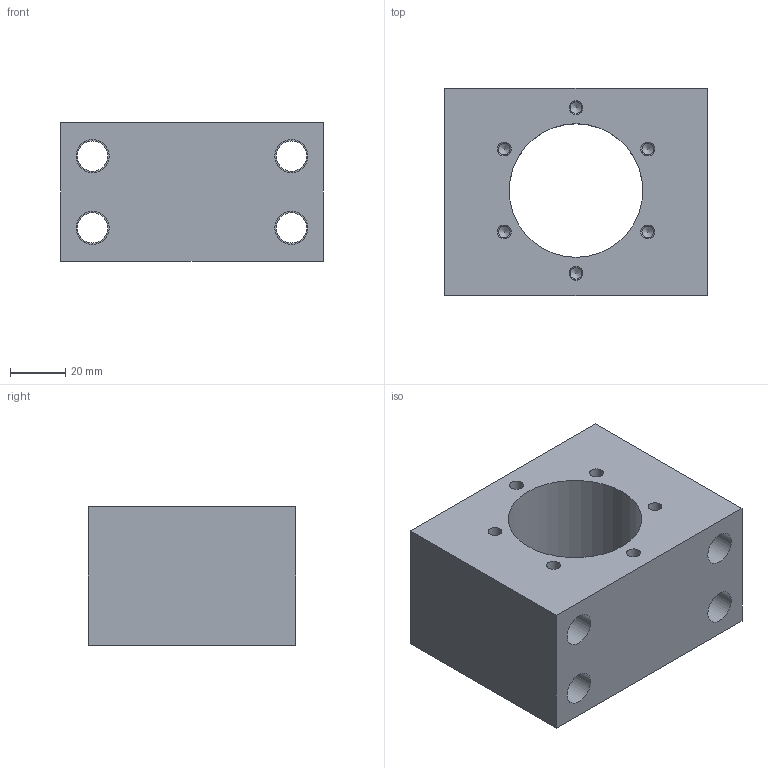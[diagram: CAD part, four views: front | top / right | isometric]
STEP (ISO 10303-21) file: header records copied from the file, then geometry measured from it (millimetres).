
FILE_DESCRIPTION(/* description */ (''),/* implementation_level */ '2;1');
FILE_NAME(/* name */ 'MGS32-1-M5.stp',/* time_stamp */ '2017-01-04T15:59:18+08:00',/* author */ (''),/* organization */ (''),/* preprocessor_version */ 'ST-DEVELOPER v15',/* originating_system */ 'SIEMENS PLM Software NX 8.5',/* authorisation */ '');
FILE_SCHEMA (('AUTOMOTIVE_DESIGN { 1 0 10303 214 3 1 1 1 }'));
Length unit declared in the file: millimetre
Products named in the file (1): Admi05BC77158bam
Bounding box: 95 x 75 x 50 mm (x, y, z)
Volume: 224891.8 mm3; surface area: 47404.6 mm2
Topology: 1 solids, 1 shells, 51 faces, 131 edges, 90 vertices
Faces by surface type: cylinder 25, plane 14, cone 12
Full cylindrical faces by diameter (mm): 4.2 x6, 5 x6, 11 x4, 12 x4, 17.5 x4, 48.4 x1
Entity records: 1182 total; most frequent: DIRECTION 216, CARTESIAN_POINT 178, ORIENTED_EDGE 124, FACE_BOUND 110, EDGE_LOOP 106, AXIS2_PLACEMENT_3D 102, VERTEX_POINT 64, EDGE_CURVE 62
